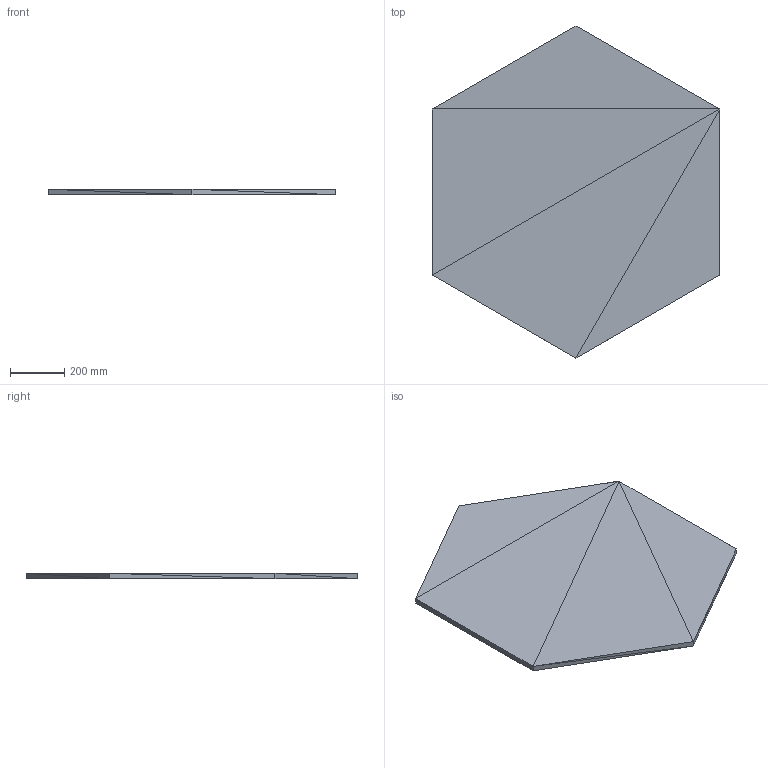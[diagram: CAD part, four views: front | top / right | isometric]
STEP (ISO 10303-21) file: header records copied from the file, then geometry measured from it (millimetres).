
FILE_DESCRIPTION(('ISINAC STEP AP214'),'2;1');
FILE_NAME('ISINAC_HEX.610_20mm_ADHESIVO','2026-05-03T10:49:19',('ISINAC'),('www.isinac.com'),'ISINAC BIM Generator 1.0','','');
FILE_SCHEMA(('AUTOMOTIVE_DESIGN'));
Length unit declared in the file: millimetre
Products named in the file (1): ISINAC_HEX.610_20mm_ADHESIVO
Bounding box: 1056.55 x 1220 x 20 mm (x, y, z)
Surface area: 2006688.3 mm2 (no closed solid volume)
Topology: 0 solids, 20 shells, 20 faces, 60 edges, 60 vertices
Faces by surface type: plane 20
Entity records: 233 total; most frequent: CARTESIAN_POINT 80, DIRECTION 40, POLY_LOOP 20, FACE_OUTER_BOUND 20, AXIS2_PLACEMENT_3D 20, PLANE 20, FACE_SURFACE 20, CLOSED_SHELL 1
